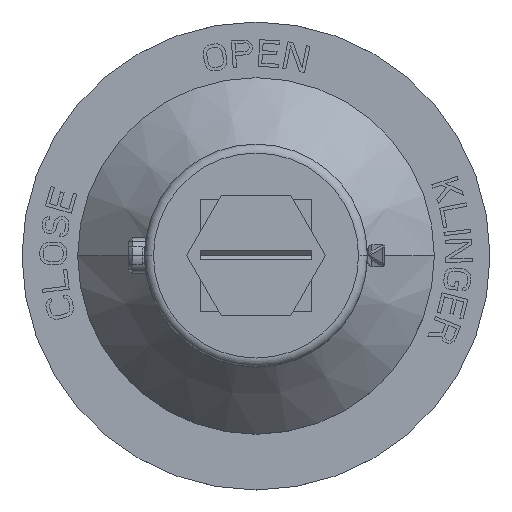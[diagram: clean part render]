
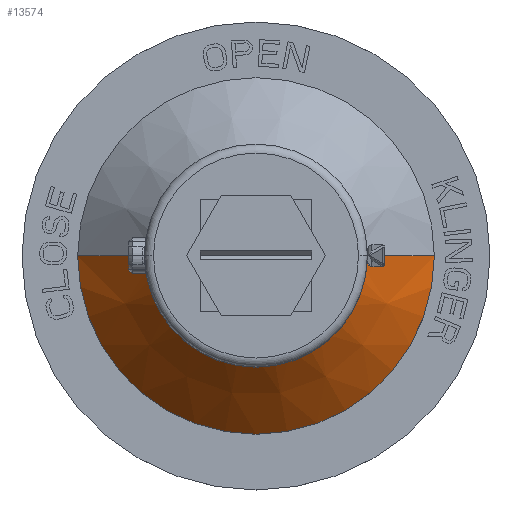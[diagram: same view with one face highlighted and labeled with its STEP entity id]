
A CAD part, top view. The second image highlights one B-rep face of the part: STEP entity #13574.
In plain terms, the highlighted conical face has half-angle 42.647 degrees and reference radius 31.25 mm.
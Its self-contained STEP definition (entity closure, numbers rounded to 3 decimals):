
#13371=DIRECTION('',(-0.677,0.,0.736));
#13372=VECTOR('',#13371,25.831);
#13373=CARTESIAN_POINT('',(40.,0.,6.));
#13374=LINE('',#13373,#13372);
#13375=DIRECTION('',(0.677,0.,0.736));
#13376=VECTOR('',#13375,25.831);
#13377=CARTESIAN_POINT('',(-40.,0.,6.));
#13378=LINE('',#13377,#13376);
#13384=CARTESIAN_POINT('',(0.,0.,6.));
#13385=DIRECTION('',(0.,0.,-1.));
#13386=DIRECTION('',(1.,0.,0.));
#13387=AXIS2_PLACEMENT_3D('',#13384,#13385,#13386);
#13394=CARTESIAN_POINT('',(0.,0.,25.));
#13395=DIRECTION('',(0.,0.,-1.));
#13396=DIRECTION('',(1.,0.,0.));
#13397=AXIS2_PLACEMENT_3D('',#13394,#13395,#13396);
#13466=CARTESIAN_POINT('',(40.,0.,6.));
#13468=VERTEX_POINT('',#13466);
#13469=CARTESIAN_POINT('',(22.5,0.,25.));
#13470=VERTEX_POINT('',#13469);
#13476=CARTESIAN_POINT('',(-40.,0.,6.));
#13478=VERTEX_POINT('',#13476);
#13479=CARTESIAN_POINT('',(-22.5,0.,25.));
#13480=VERTEX_POINT('',#13479);
#13562=CARTESIAN_POINT('',(0.,0.,15.5));
#13563=DIRECTION('',(0.,0.,-1.));
#13564=DIRECTION('',(-1.,0.,0.));
#13565=AXIS2_PLACEMENT_3D('',#13562,#13563,#13564);
#13566=CONICAL_SURFACE('',#13565,31.25,42.647);
#13567=ORIENTED_EDGE('',*,*,#13552,.F.);
#13568=ORIENTED_EDGE('',*,*,#13529,.T.);
#13569=ORIENTED_EDGE('',*,*,#13556,.T.);
#13571=ORIENTED_EDGE('',*,*,#13570,.F.);
#13572=EDGE_LOOP('',(#13567,#13568,#13569,#13571));
#13573=FACE_OUTER_BOUND('',#13572,.F.);
#13574=ADVANCED_FACE('',(#13573),#13566,.T.);
#13388=CIRCLE('',#13387,40.);
#13398=CIRCLE('',#13397,22.5);
#13529=EDGE_CURVE('',#13468,#13478,#13388,.T.);
#13552=EDGE_CURVE('',#13468,#13470,#13374,.T.);
#13556=EDGE_CURVE('',#13478,#13480,#13378,.T.);
#13570=EDGE_CURVE('',#13470,#13480,#13398,.T.);
